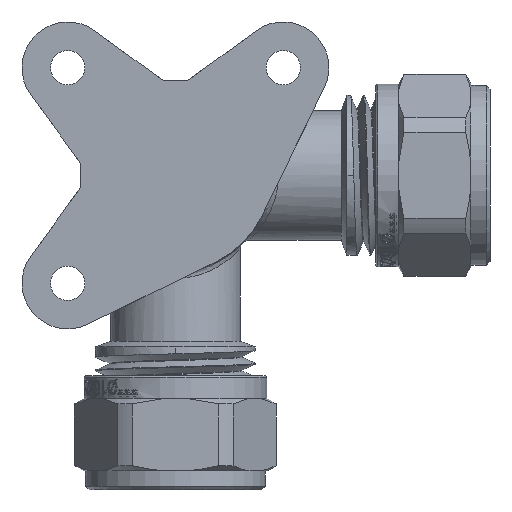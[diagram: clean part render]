
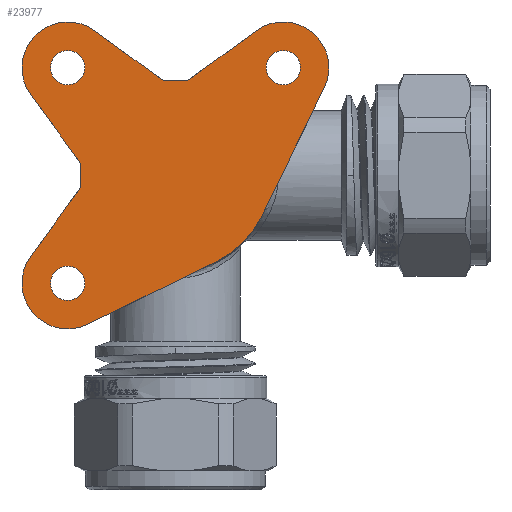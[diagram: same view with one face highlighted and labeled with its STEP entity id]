
A CAD part, front view. The second image highlights one B-rep face of the part: STEP entity #23977.
In plain terms, the highlighted planar face has unit normal (0, -1, 0).
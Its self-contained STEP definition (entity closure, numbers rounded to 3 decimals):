
#1088=PLANE('',#25241);
#2465=FACE_OUTER_BOUND('',#4628,.T.);
#2595=CIRCLE('',#24167,1.);
#2598=CIRCLE('',#24171,12.5);
#2599=CIRCLE('',#24172,12.5);
#2600=CIRCLE('',#24173,12.5);
#2601=CIRCLE('',#24175,1.);
#2602=CIRCLE('',#24178,1.);
#2603=CIRCLE('',#24180,1.);
#2604=CIRCLE('',#24183,2.25);
#2605=CIRCLE('',#24184,2.25);
#2606=CIRCLE('',#24186,2.25);
#2607=CIRCLE('',#24187,2.25);
#2608=CIRCLE('',#24190,6.);
#2609=CIRCLE('',#24194,6.);
#2610=CIRCLE('',#24197,6.);
#2611=CIRCLE('',#24199,2.25);
#2612=CIRCLE('',#24200,2.25);
#3217=FACE_BOUND('',#4629,.T.);
#3218=FACE_BOUND('',#4630,.T.);
#3219=FACE_BOUND('',#4631,.T.);
#4628=EDGE_LOOP('',(#22477,#22478,#22479,#22480,#22481,#22482,#22483,#22484,
#22485,#22486,#22487,#22488,#22489,#22490,#22491,#22492));
#4629=EDGE_LOOP('',(#22493,#22494));
#4630=EDGE_LOOP('',(#22495,#22496));
#4631=EDGE_LOOP('',(#22497,#22498));
#6196=LINE('',#34126,#7720);
#6200=LINE('',#34138,#7724);
#6203=LINE('',#34153,#7727);
#6206=LINE('',#34160,#7730);
#6207=LINE('',#34163,#7731);
#6209=LINE('',#34169,#7733);
#7720=VECTOR('',#25713,10.);
#7724=VECTOR('',#25727,10.);
#7727=VECTOR('',#25744,10.);
#7730=VECTOR('',#25753,10.);
#7731=VECTOR('',#25756,10.);
#7733=VECTOR('',#25764,10.);
#9944=VERTEX_POINT('',#34042);
#9945=VERTEX_POINT('',#34044);
#9951=VERTEX_POINT('',#34073);
#9952=VERTEX_POINT('',#34075);
#9953=VERTEX_POINT('',#34078);
#9954=VERTEX_POINT('',#34080);
#9955=VERTEX_POINT('',#34083);
#9957=VERTEX_POINT('',#34120);
#9958=VERTEX_POINT('',#34124);
#9959=VERTEX_POINT('',#34128);
#9960=VERTEX_POINT('',#34132);
#9961=VERTEX_POINT('',#34136);
#9962=VERTEX_POINT('',#34140);
#9963=VERTEX_POINT('',#34141);
#9964=VERTEX_POINT('',#34146);
#9965=VERTEX_POINT('',#34147);
#9966=VERTEX_POINT('',#34152);
#9967=VERTEX_POINT('',#34156);
#9968=VERTEX_POINT('',#34162);
#9969=VERTEX_POINT('',#34168);
#9970=VERTEX_POINT('',#34174);
#9971=VERTEX_POINT('',#34175);
#12432=EDGE_CURVE('',#9944,#9945,#2595,.T.);
#12441=EDGE_CURVE('',#9952,#9951,#2598,.T.);
#12444=EDGE_CURVE('',#9954,#9953,#2599,.T.);
#12447=EDGE_CURVE('',#9944,#9955,#2600,.T.);
#12451=EDGE_CURVE('',#9957,#9955,#2601,.T.);
#12453=EDGE_CURVE('',#9957,#9958,#6196,.T.);
#12454=EDGE_CURVE('',#9954,#9959,#2602,.T.);
#12457=EDGE_CURVE('',#9960,#9953,#2603,.T.);
#12459=EDGE_CURVE('',#9960,#9961,#6200,.T.);
#12460=EDGE_CURVE('',#9962,#9963,#2604,.T.);
#12461=EDGE_CURVE('',#9963,#9962,#2605,.T.);
#12463=EDGE_CURVE('',#9964,#9965,#2606,.T.);
#12464=EDGE_CURVE('',#9965,#9964,#2607,.T.);
#12466=EDGE_CURVE('',#9966,#9945,#6203,.T.);
#12468=EDGE_CURVE('',#9967,#9966,#2608,.T.);
#12470=EDGE_CURVE('',#9951,#9967,#6206,.T.);
#12471=EDGE_CURVE('',#9968,#9952,#6207,.T.);
#12473=EDGE_CURVE('',#9961,#9968,#2609,.T.);
#12474=EDGE_CURVE('',#9969,#9959,#6209,.T.);
#12476=EDGE_CURVE('',#9958,#9969,#2610,.T.);
#12477=EDGE_CURVE('',#9970,#9971,#2611,.T.);
#12478=EDGE_CURVE('',#9971,#9970,#2612,.T.);
#22477=ORIENTED_EDGE('',*,*,#12447,.T.);
#22478=ORIENTED_EDGE('',*,*,#12451,.F.);
#22479=ORIENTED_EDGE('',*,*,#12453,.T.);
#22480=ORIENTED_EDGE('',*,*,#12476,.T.);
#22481=ORIENTED_EDGE('',*,*,#12474,.T.);
#22482=ORIENTED_EDGE('',*,*,#12454,.F.);
#22483=ORIENTED_EDGE('',*,*,#12444,.T.);
#22484=ORIENTED_EDGE('',*,*,#12457,.F.);
#22485=ORIENTED_EDGE('',*,*,#12459,.T.);
#22486=ORIENTED_EDGE('',*,*,#12473,.T.);
#22487=ORIENTED_EDGE('',*,*,#12471,.T.);
#22488=ORIENTED_EDGE('',*,*,#12441,.T.);
#22489=ORIENTED_EDGE('',*,*,#12470,.T.);
#22490=ORIENTED_EDGE('',*,*,#12468,.T.);
#22491=ORIENTED_EDGE('',*,*,#12466,.T.);
#22492=ORIENTED_EDGE('',*,*,#12432,.F.);
#22493=ORIENTED_EDGE('',*,*,#12460,.T.);
#22494=ORIENTED_EDGE('',*,*,#12461,.T.);
#22495=ORIENTED_EDGE('',*,*,#12463,.T.);
#22496=ORIENTED_EDGE('',*,*,#12464,.T.);
#22497=ORIENTED_EDGE('',*,*,#12477,.T.);
#22498=ORIENTED_EDGE('',*,*,#12478,.T.);
#23977=ADVANCED_FACE('',(#2465,#3217,#3218,#3219),#1088,.T.);
#24167=AXIS2_PLACEMENT_3D('',#34045,#25683,#25684);
#24171=AXIS2_PLACEMENT_3D('',#34076,#25695,#25696);
#24172=AXIS2_PLACEMENT_3D('',#34081,#25699,#25700);
#24173=AXIS2_PLACEMENT_3D('',#34085,#25703,#25704);
#24175=AXIS2_PLACEMENT_3D('',#34122,#25708,#25709);
#24178=AXIS2_PLACEMENT_3D('',#34129,#25716,#25717);
#24180=AXIS2_PLACEMENT_3D('',#34134,#25722,#25723);
#24183=AXIS2_PLACEMENT_3D('',#34142,#25730,#25731);
#24184=AXIS2_PLACEMENT_3D('',#34143,#25732,#25733);
#24186=AXIS2_PLACEMENT_3D('',#34148,#25737,#25738);
#24187=AXIS2_PLACEMENT_3D('',#34149,#25739,#25740);
#24190=AXIS2_PLACEMENT_3D('',#34157,#25748,#25749);
#24194=AXIS2_PLACEMENT_3D('',#34166,#25760,#25761);
#24197=AXIS2_PLACEMENT_3D('',#34172,#25768,#25769);
#24199=AXIS2_PLACEMENT_3D('',#34176,#25772,#25773);
#24200=AXIS2_PLACEMENT_3D('',#34177,#25774,#25775);
#25241=AXIS2_PLACEMENT_3D('',#55945,#29251,#29252);
#25683=DIRECTION('center_axis',(0.,-1.,0.));
#25684=DIRECTION('ref_axis',(0.264,0.,-0.965));
#25695=DIRECTION('center_axis',(0.,-1.,0.));
#25696=DIRECTION('ref_axis',(-0.439,0.,0.899));
#25699=DIRECTION('center_axis',(0.,-1.,0.));
#25700=DIRECTION('ref_axis',(0.992,0.,-0.124));
#25703=DIRECTION('center_axis',(0.,-1.,0.));
#25704=DIRECTION('ref_axis',(-0.124,0.,-0.992));
#25708=DIRECTION('center_axis',(0.,-1.,0.));
#25709=DIRECTION('ref_axis',(-0.264,0.,-0.965));
#25713=DIRECTION('',(-0.809,0.,0.588));
#25716=DIRECTION('center_axis',(0.,-1.,0.));
#25717=DIRECTION('ref_axis',(0.965,0.,0.264));
#25722=DIRECTION('center_axis',(0.,-1.,0.));
#25723=DIRECTION('ref_axis',(0.965,0.,-0.264));
#25727=DIRECTION('',(-0.588,0.,-0.809));
#25730=DIRECTION('center_axis',(0.,1.,0.));
#25731=DIRECTION('ref_axis',(1.,0.,0.));
#25732=DIRECTION('center_axis',(0.,1.,0.));
#25733=DIRECTION('ref_axis',(1.,0.,0.));
#25737=DIRECTION('center_axis',(0.,1.,0.));
#25738=DIRECTION('ref_axis',(1.,0.,0.));
#25739=DIRECTION('center_axis',(0.,1.,0.));
#25740=DIRECTION('ref_axis',(1.,0.,0.));
#25744=DIRECTION('',(-0.809,0.,-0.588));
#25748=DIRECTION('center_axis',(0.,-1.,0.));
#25749=DIRECTION('ref_axis',(-0.899,0.,0.439));
#25753=DIRECTION('',(0.439,0.,0.899));
#25756=DIRECTION('',(0.899,0.,0.439));
#25760=DIRECTION('center_axis',(0.,-1.,0.));
#25761=DIRECTION('ref_axis',(0.809,0.,-0.588));
#25764=DIRECTION('',(0.588,0.,-0.809));
#25768=DIRECTION('center_axis',(0.,-1.,0.));
#25769=DIRECTION('ref_axis',(-0.588,0.,-0.809));
#25772=DIRECTION('center_axis',(0.,1.,0.));
#25773=DIRECTION('ref_axis',(1.,0.,0.));
#25774=DIRECTION('center_axis',(0.,1.,0.));
#25775=DIRECTION('ref_axis',(1.,0.,0.));
#29251=DIRECTION('center_axis',(0.,-1.,0.));
#29252=DIRECTION('ref_axis',(0.,0.,-1.));
#34042=CARTESIAN_POINT('',(1.182,-17.,12.444));
#34044=CARTESIAN_POINT('',(1.865,-17.,12.631));
#34045=CARTESIAN_POINT('Origin',(1.277,-17.,13.439));
#34073=CARTESIAN_POINT('',(11.232,-17.,-5.486));
#34075=CARTESIAN_POINT('',(5.486,-17.,-11.232));
#34076=CARTESIAN_POINT('Origin',(0.,-17.,0.));
#34078=CARTESIAN_POINT('',(-12.444,-17.,-1.182));
#34080=CARTESIAN_POINT('',(-12.444,-17.,1.182));
#34081=CARTESIAN_POINT('Origin',(0.,-17.,0.));
#34083=CARTESIAN_POINT('',(-1.182,-17.,12.444));
#34085=CARTESIAN_POINT('Origin',(0.,-17.,0.));
#34120=CARTESIAN_POINT('',(-1.865,-17.,12.631));
#34122=CARTESIAN_POINT('Origin',(-1.277,-17.,13.439));
#34124=CARTESIAN_POINT('',(-10.613,-17.,18.994));
#34126=CARTESIAN_POINT('',(-7.086,-17.,16.429));
#34128=CARTESIAN_POINT('',(-12.631,-17.,1.865));
#34129=CARTESIAN_POINT('Origin',(-13.439,-17.,1.277));
#34132=CARTESIAN_POINT('',(-12.631,-17.,-1.865));
#34134=CARTESIAN_POINT('Origin',(-13.439,-17.,-1.277));
#34136=CARTESIAN_POINT('',(-18.994,-17.,-10.613));
#34138=CARTESIAN_POINT('',(-14.646,-17.,-4.636));
#34140=CARTESIAN_POINT('',(-11.892,-17.,14.142));
#34141=CARTESIAN_POINT('',(-16.392,-17.,14.142));
#34142=CARTESIAN_POINT('Origin',(-14.142,-17.,14.142));
#34143=CARTESIAN_POINT('Origin',(-14.142,-17.,14.142));
#34146=CARTESIAN_POINT('',(16.392,-17.,14.142));
#34147=CARTESIAN_POINT('',(11.892,-17.,14.142));
#34148=CARTESIAN_POINT('Origin',(14.142,-17.,14.142));
#34149=CARTESIAN_POINT('Origin',(14.142,-17.,14.142));
#34152=CARTESIAN_POINT('',(10.613,-17.,18.994));
#34153=CARTESIAN_POINT('',(-6.367,-17.,6.642));
#34156=CARTESIAN_POINT('',(19.533,-17.,11.509));
#34157=CARTESIAN_POINT('Origin',(14.142,-17.,14.142));
#34160=CARTESIAN_POINT('',(8.583,-17.,-10.909));
#34162=CARTESIAN_POINT('',(-11.509,-17.,-19.533));
#34163=CARTESIAN_POINT('',(-14.112,-17.,-20.805));
#34166=CARTESIAN_POINT('Origin',(-14.142,-17.,-14.142));
#34168=CARTESIAN_POINT('',(-18.994,-17.,10.613));
#34169=CARTESIAN_POINT('',(-17.942,-17.,9.166));
#34172=CARTESIAN_POINT('Origin',(-14.142,-17.,14.142));
#34174=CARTESIAN_POINT('',(-11.892,-17.,-14.142));
#34175=CARTESIAN_POINT('',(-16.392,-17.,-14.142));
#34176=CARTESIAN_POINT('Origin',(-14.142,-17.,-14.142));
#34177=CARTESIAN_POINT('Origin',(-14.142,-17.,-14.142));
#55945=CARTESIAN_POINT('Origin',(-27.5,-17.,0.));
